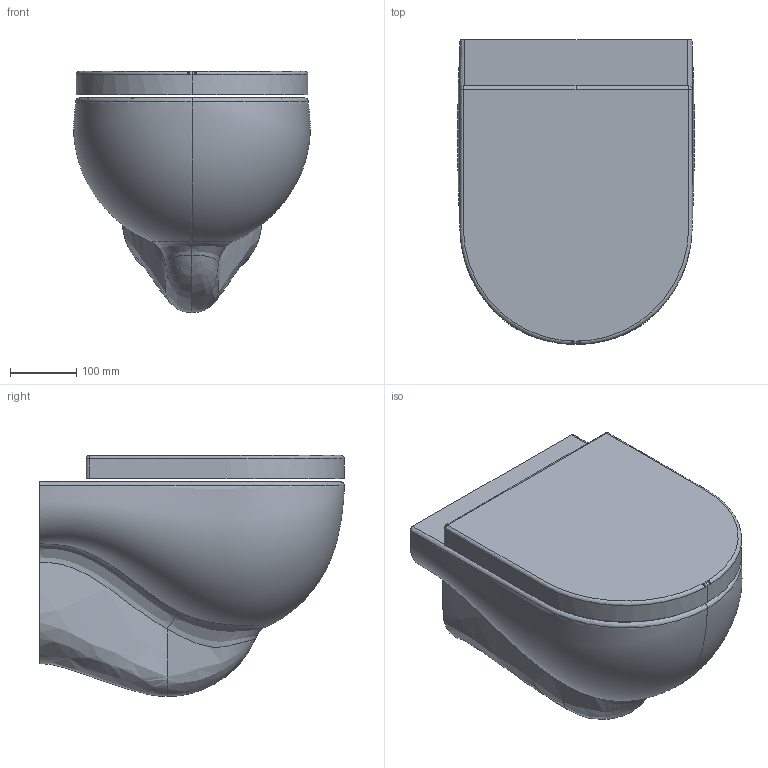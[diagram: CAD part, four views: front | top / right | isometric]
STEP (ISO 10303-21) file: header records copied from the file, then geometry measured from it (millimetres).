
FILE_DESCRIPTION (( 'STEP AP203' ), '1' );
FILE_NAME ('NUVKSP046000.STEP', '2019-06-12T09:53:35', ( '' ), ( '' ), 'SwSTEP 2.0', 'SolidWorks 2019', '' );
FILE_SCHEMA (( 'CONFIG_CONTROL_DESIGN' ));
Products named in the file (3): NUV 1845; nuv146_SOSK; NUVKSP046000
Assembly tree (2 placements, depth 2):
  NUVKSP046000
    nuv146_SOSK
    NUV 1845
Bounding box: 357.16 x 459.93 x 364 mm (x, y, z)
Volume: 22260313.2 mm3; surface area: 1017204.5 mm2
Topology: 2 solids, 2 shells, 111 faces, 262 edges, 152 vertices
Faces by surface type: bspline 46, plane 27, cylinder 22, cone 8, torus 6, sphere 2
Entity records: 110547 total; most frequent: CARTESIAN_POINT 108094, ORIENTED_EDGE 508, DIRECTION 350, EDGE_CURVE 254, VERTEX_POINT 152, AXIS2_PLACEMENT_3D 144, B_SPLINE_CURVE_WITH_KNOTS 116, EDGE_LOOP 116
